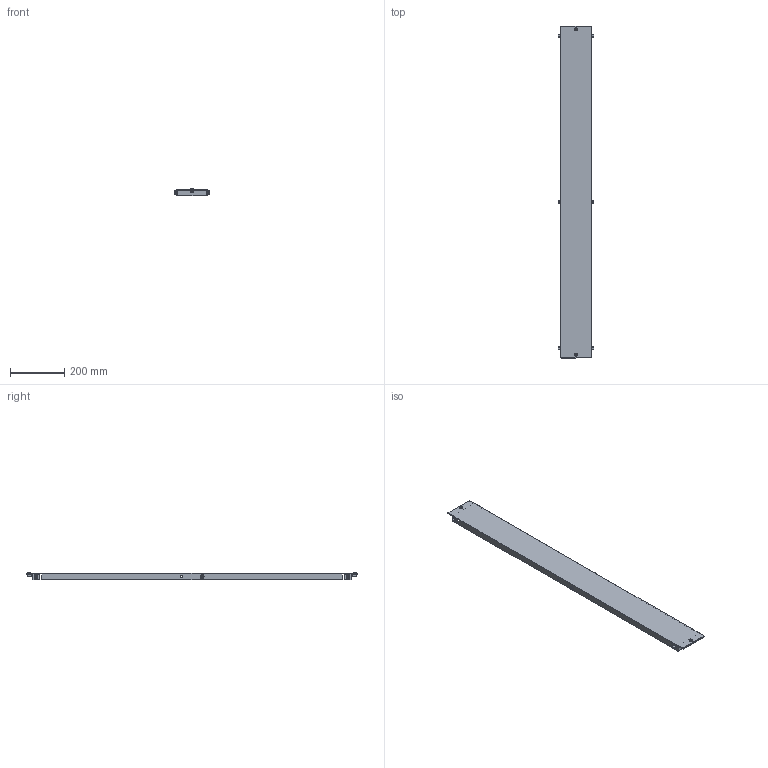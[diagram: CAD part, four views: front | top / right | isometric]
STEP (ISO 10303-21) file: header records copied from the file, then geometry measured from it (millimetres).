
FILE_DESCRIPTION(('Open CASCADE Model'),'2;1');
FILE_NAME('Open CASCADE Shape Model','2025-02-13T17:15:41',('Author'),( 'Open CASCADE'),'Open CASCADE STEP processor 7.8','Open CASCADE 7.8' ,'Unknown');
FILE_SCHEMA(('AUTOMOTIVE_DESIGN { 1 0 10303 214 1 1 1 1 }'));
Length unit declared in the file: millimetre
Products named in the file (7): Compound1; Solid1; Solid2; Solid3; Solid4; Solid5; Solid6
Assembly tree (19 placements, depth 2):
  Compound1
    Solid1
    Solid2  x2
    Solid3  x6
    Solid4  x2
    Solid5  x6
    Solid6  x2
Bounding box: 132 x 1225 x 28.9 mm (x, y, z)
Volume: 504230.2 mm3; surface area: 416236.4 mm2
Topology: 19 solids, 19 shells, 1008 faces, 2765 edges, 1793 vertices
Faces by surface type: plane 550, cylinder 312, cone 80, bspline 48, torus 16, sphere 2
Full cylindrical faces by diameter (mm): 4.917 x6, 5 x2, 6 x10, 6.6 x6, 7 x4, 8 x6, 11 x2
Entity records: 8694 total; most frequent: CARTESIAN_POINT 2254, ORIENTED_EDGE 1378, DIRECTION 1236, EDGE_CURVE 689, VERTEX_POINT 448, AXIS2_PLACEMENT_3D 424, LINE 388, VECTOR 388
